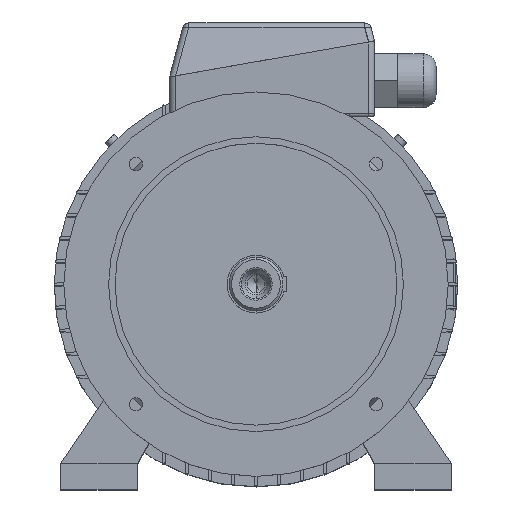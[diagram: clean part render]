
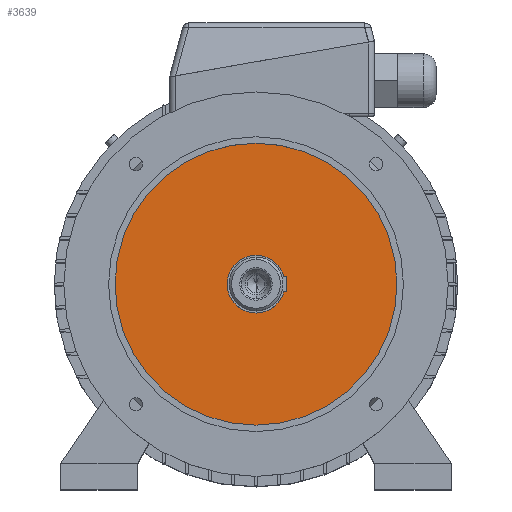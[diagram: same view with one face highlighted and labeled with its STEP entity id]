
A CAD part, top view. The second image highlights one B-rep face of the part: STEP entity #3639.
In plain terms, the highlighted planar face has unit normal (0, 0, 1).
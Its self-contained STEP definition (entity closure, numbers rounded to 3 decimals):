
#37 = CIRCLE ( 'NONE', #38, 110. ) ;
#38 = AXIS2_PLACEMENT_3D ( 'NONE', #39, #47, #48 ) ;
#39 = CARTESIAN_POINT ( 'NONE',  ( 0., 0., 59. ) ) ;
#47 = DIRECTION ( 'NONE',  ( 0., 0., 1. ) ) ;
#48 = DIRECTION ( 'NONE',  ( 1., 0., 0. ) ) ;
#111 = ORIENTED_EDGE ( 'NONE', *, *, #12569, .T. ) ;
#722 = ORIENTED_EDGE ( 'NONE', *, *, #5366, .T. ) ;
#17174 = CIRCLE ( 'NONE', #17175, 22.5 ) ;
#17175 = AXIS2_PLACEMENT_3D ( 'NONE', #17176, #17177, #17178 ) ;
#17176 = CARTESIAN_POINT ( 'NONE',  ( 0., 0., 59. ) ) ;
#17177 = DIRECTION ( 'NONE',  ( 0., 0., 1. ) ) ;
#17178 = DIRECTION ( 'NONE',  ( 1., 0., 0. ) ) ;
#899 = VERTEX_POINT ( 'NONE', #16201 ) ;
#1359 = EDGE_LOOP ( 'NONE', ( #722, #111 ) ) ;
#1623 = ORIENTED_EDGE ( 'NONE', *, *, #19750, .F. ) ;
#18404 = FACE_BOUND ( 'NONE', #3358, .T. ) ;
#18405 = FACE_OUTER_BOUND ( 'NONE', #1359, .T. ) ;
#18406 = PLANE ( 'NONE',  #18407 ) ;
#18407 = AXIS2_PLACEMENT_3D ( 'NONE', #18408, #18416, #18417 ) ;
#18408 = CARTESIAN_POINT ( 'NONE',  ( 0., 115., 59. ) ) ;
#18416 = DIRECTION ( 'NONE',  ( 0., 0., 1. ) ) ;
#18417 = DIRECTION ( 'NONE',  ( 1., 0., 0. ) ) ;
#2269 = EDGE_CURVE ( 'NONE', #19468, #899, #17174, .T. ) ;
#2723 = ORIENTED_EDGE ( 'NONE', *, *, #2269, .F. ) ;
#19468 = VERTEX_POINT ( 'NONE', #13869 ) ;
#3358 = EDGE_LOOP ( 'NONE', ( #2723, #1623 ) ) ;
#19750 = EDGE_CURVE ( 'NONE', #899, #19468, #14096, .T. ) ;
#3639 = ADVANCED_FACE ( 'NONE', ( #18404, #18405 ), #18406, .T. ) ;
#5027 = CARTESIAN_POINT ( 'NONE',  ( 110., 0., 59. ) ) ;
#5366 = EDGE_CURVE ( 'NONE', #12037, #12307, #37, .T. ) ;
#5379 = CARTESIAN_POINT ( 'NONE',  ( -110., 0., 59. ) ) ;
#5638 = CIRCLE ( 'NONE', #5639, 110. ) ;
#5639 = AXIS2_PLACEMENT_3D ( 'NONE', #5640, #5641, #5642 ) ;
#5640 = CARTESIAN_POINT ( 'NONE',  ( 0., 0., 59. ) ) ;
#5641 = DIRECTION ( 'NONE',  ( 0., 0., 1. ) ) ;
#5642 = DIRECTION ( 'NONE',  ( 1., 0., 0. ) ) ;
#12037 = VERTEX_POINT ( 'NONE', #5027 ) ;
#12307 = VERTEX_POINT ( 'NONE', #5379 ) ;
#12569 = EDGE_CURVE ( 'NONE', #12307, #12037, #5638, .T. ) ;
#13869 = CARTESIAN_POINT ( 'NONE',  ( 0., 22.5, 59. ) ) ;
#14096 = CIRCLE ( 'NONE', #14097, 22.5 ) ;
#14097 = AXIS2_PLACEMENT_3D ( 'NONE', #14098, #14099, #14100 ) ;
#14098 = CARTESIAN_POINT ( 'NONE',  ( 0., 0., 59. ) ) ;
#14099 = DIRECTION ( 'NONE',  ( 0., 0., 1. ) ) ;
#14100 = DIRECTION ( 'NONE',  ( 1., 0., 0. ) ) ;
#16201 = CARTESIAN_POINT ( 'NONE',  ( 0., -22.5, 59. ) ) ;
